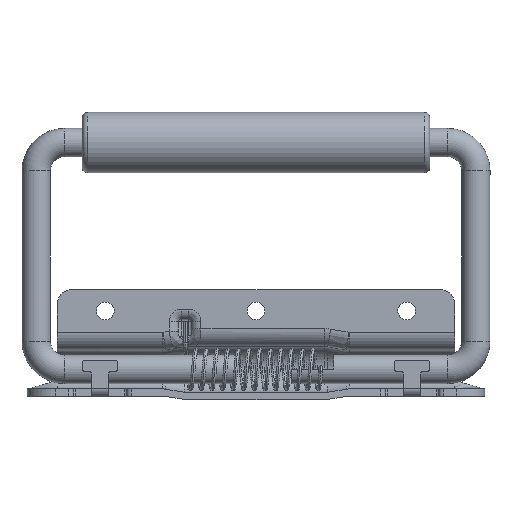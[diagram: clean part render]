
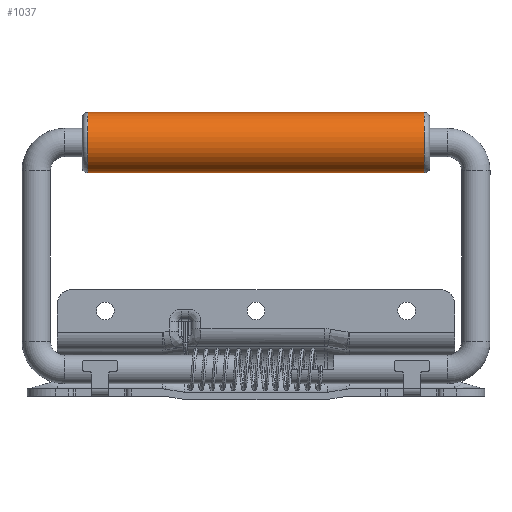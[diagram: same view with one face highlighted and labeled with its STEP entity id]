
A CAD part, front view. The second image highlights one B-rep face of the part: STEP entity #1037.
In plain terms, the highlighted cylindrical face has radius 8.5 mm (diameter 17 mm), a partial arc.
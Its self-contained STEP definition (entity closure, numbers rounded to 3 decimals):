
#111 = DIRECTION ( 'NONE',  ( 0., 0., -1. ) ) ;
#351 = DIRECTION ( 'NONE',  ( -1., 0., 0. ) ) ;
#1037 = ADVANCED_FACE ( 'NONE', ( #15601 ), #4781, .T. ) ;
#1168 = ORIENTED_EDGE ( 'NONE', *, *, #2773, .T. ) ;
#1648 = DIRECTION ( 'NONE',  ( -1., 0., 0. ) ) ;
#1837 = DIRECTION ( 'NONE',  ( 0., 0., 1. ) ) ;
#1935 = AXIS2_PLACEMENT_3D ( 'NONE', #16353, #8259, #111 ) ;
#2696 = CARTESIAN_POINT ( 'NONE',  ( 96.5, 0., -8.5 ) ) ;
#2773 = EDGE_CURVE ( 'NONE', #11124, #5045, #5959, .T. ) ;
#3007 = LINE ( 'NONE', #16463, #9403 ) ;
#3071 = CARTESIAN_POINT ( 'NONE',  ( 98., 0., 8.5 ) ) ;
#3138 = CARTESIAN_POINT ( 'NONE',  ( 98., 0., 0. ) ) ;
#3189 = VERTEX_POINT ( 'NONE', #7518 ) ;
#3274 = AXIS2_PLACEMENT_3D ( 'NONE', #14250, #6130, #15597 ) ;
#3997 = ORIENTED_EDGE ( 'NONE', *, *, #12461, .T. ) ;
#4781 = CYLINDRICAL_SURFACE ( 'NONE', #11017, 8.5 ) ;
#5045 = VERTEX_POINT ( 'NONE', #11704 ) ;
#5367 = VECTOR ( 'NONE', #351, 1000. ) ;
#5959 = CIRCLE ( 'NONE', #3274, 8.5 ) ;
#6130 = DIRECTION ( 'NONE',  ( -1., 0., 0. ) ) ;
#7342 = VERTEX_POINT ( 'NONE', #8759 ) ;
#7518 = CARTESIAN_POINT ( 'NONE',  ( 1.5, 0., -8.5 ) ) ;
#8259 = DIRECTION ( 'NONE',  ( 1., 0., 0. ) ) ;
#8759 = CARTESIAN_POINT ( 'NONE',  ( 1.5, 0., 8.5 ) ) ;
#9403 = VECTOR ( 'NONE', #1648, 1000. ) ;
#9508 = ORIENTED_EDGE ( 'NONE', *, *, #12738, .T. ) ;
#9579 = EDGE_LOOP ( 'NONE', ( #10911, #1168, #9508, #3997 ) ) ;
#10691 = CIRCLE ( 'NONE', #1935, 8.5 ) ;
#10911 = ORIENTED_EDGE ( 'NONE', *, *, #13860, .F. ) ;
#11017 = AXIS2_PLACEMENT_3D ( 'NONE', #3138, #12724, #1837 ) ;
#11124 = VERTEX_POINT ( 'NONE', #2696 ) ;
#11704 = CARTESIAN_POINT ( 'NONE',  ( 96.5, 0., 8.5 ) ) ;
#12461 = EDGE_CURVE ( 'NONE', #7342, #3189, #10691, .T. ) ;
#12724 = DIRECTION ( 'NONE',  ( -1., 0., 0. ) ) ;
#12738 = EDGE_CURVE ( 'NONE', #5045, #7342, #16176, .T. ) ;
#13860 = EDGE_CURVE ( 'NONE', #11124, #3189, #3007, .T. ) ;
#14250 = CARTESIAN_POINT ( 'NONE',  ( 96.5, 0., 0. ) ) ;
#15597 = DIRECTION ( 'NONE',  ( 0., 0., -1. ) ) ;
#15601 = FACE_OUTER_BOUND ( 'NONE', #9579, .T. ) ;
#16176 = LINE ( 'NONE', #3071, #5367 ) ;
#16353 = CARTESIAN_POINT ( 'NONE',  ( 1.5, 0., 0. ) ) ;
#16463 = CARTESIAN_POINT ( 'NONE',  ( 98., 0., -8.5 ) ) ;
